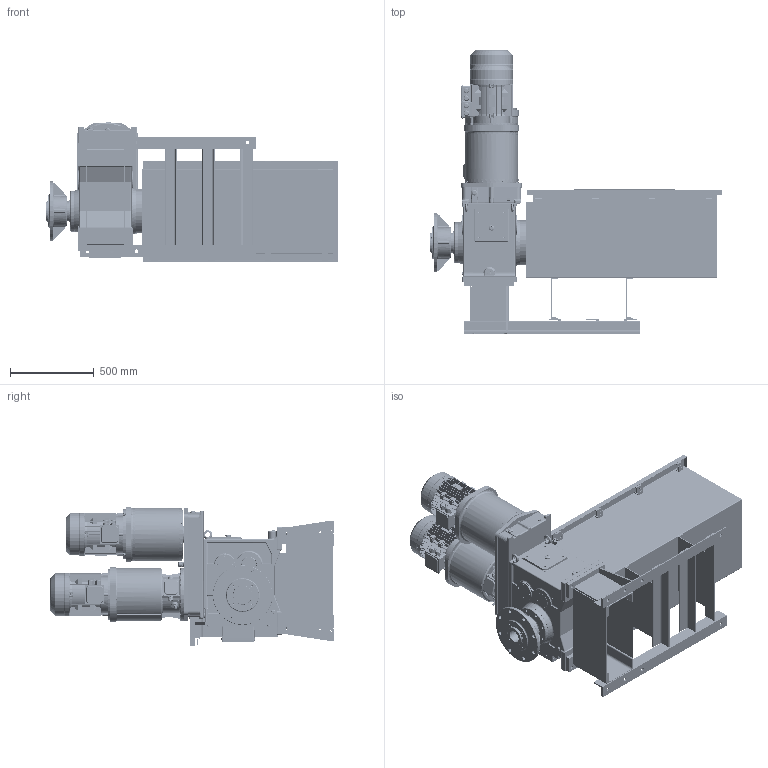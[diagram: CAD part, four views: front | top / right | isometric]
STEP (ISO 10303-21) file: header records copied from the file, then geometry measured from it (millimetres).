
FILE_DESCRIPTION(/* description */ (''),/* implementation_level */ '2;1');
FILE_NAME(/* name */ 'K:\NEMANJA\CABLE REEL\CABLE REEL DA\0700-6\07006002 DAPR-MCGBSR\STEP\75946.stp',/* time_stamp */ '2017-03-16T13:33:39+01:00',/* author */ ('vlakrc01'),/* organization */ ('Hillmar Industries Ltd.'),/* preprocessor_version */ 'ST-DEVELOPER v16.1',/* originating_system */ 'Autodesk Inventor 2016',/* authorisation */ '');
FILE_SCHEMA (('AUTOMOTIVE_DESIGN { 1 0 10303 214 3 1 1 }'));
Products named in the file (1): 75946
Bounding box: 1746.25 x 1691.71 x 832.54 mm (x, y, z)
Volume: 98068682.4 mm3; surface area: 18243960.5 mm2
Topology: 17 solids, 17 shells, 10743 faces, 29131 edges, 18757 vertices
Faces by surface type: plane 6432, cylinder 2307, bspline 909, cone 676, torus 327, sphere 92
Full cylindrical faces by diameter (mm): 3 x8, 5 x8, 7 x4, 8 x4, 8.376 x16, 8.731 x1, 10 x45, 10.106 x78, 10.38 x3, 10.5 x4, 11 x20, 11.053 x8, 12 x11, 12.5 x6, 13 x37, 13.2 x3, 13.5 x12, 14 x12, 14.3 x4, 15 x19, 16.974 x4, 17 x4, 17.2 x8, 17.294 x4, 17.336 x1, 17.475 x1, 18 x6, 18.256 x3, 18.38 x4, 20 x17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
Entity records: 367067 total; most frequent: CARTESIAN_POINT 95401, ORIENTED_EDGE 55588, DIRECTION 50290, EDGE_CURVE 27777, VERTEX_POINT 18327, LINE 17140, VECTOR 17140, AXIS2_PLACEMENT_3D 16575
